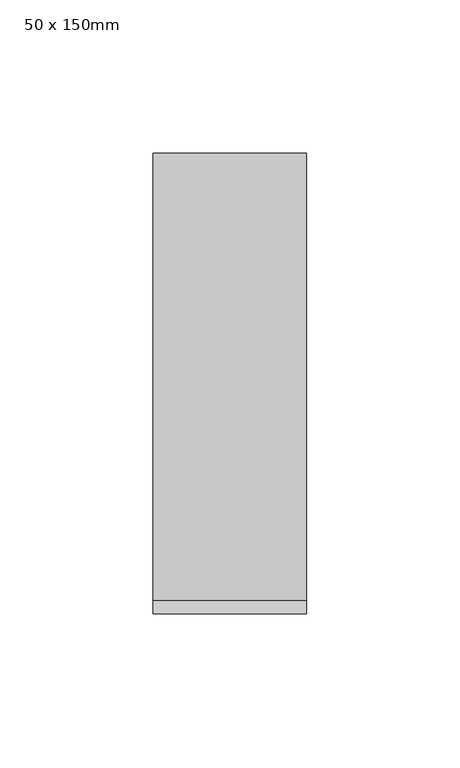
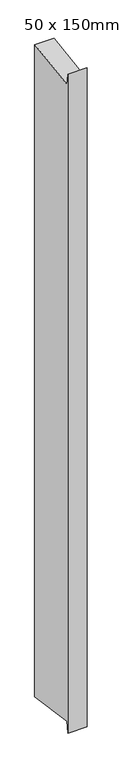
"""IFC4 building model written with IfcOpenShell, lengths in millimetres: member geometry, 矩形竖梃 : 50 x 150mm."""

from ifc_helpers import new_model, si_unit, frame, origin, place, context, project, spatial, polyline, outline, extrude, source, transform, mapped, element, save


def member_50_x_150mm_4a28a883(model_context):
    return source(origin(), model_context, "Body", "SweptSolid", [
        extrude(outline(polyline([(-75.0, 19.6109918), (-70.6553215, -10.4658363), (75.0, 10.5744657), (75.0, -1790.5744657), (-70.6553215, -1769.5341637), (-75.0, -1799.6109918), (-75.0, 19.6109918)])), frame((-50.0, 0.0, 0.0), z_axis=(1.0, 0.0, 0.0), x_axis=(0.0, 1.0, 0.0)), (0.0, 0.0, 1.0), 50.0),
    ])


if __name__ == "__main__":
    model = new_model("IFC4")
    model_context = context("Model", 3, world=origin())
    ifc_project = project(units=[si_unit("LENGTHUNIT", "METRE", prefix="MILLI")], contexts=[model_context])
    site = spatial("IfcSite", under=ifc_project)
    building = spatial("IfcBuilding", under=site)
    placement = place(None, origin())
    member_50_x_150mm_shape = member_50_x_150mm_4a28a883(model_context)
    element("IfcMember", 1, ObjectType="矩形竖梃 : 50 x 150mm", at=placement, inside=building, context=model_context, shape_type="MappedRepresentation", body=[
        mapped(member_50_x_150mm_shape, transform((0.0, 0.0, 0.0), x_axis=(1.0, 0.0, 0.0), y_axis=(0.0, 1.0, 0.0), z_axis=(0.0, 0.0, 1.0))),
    ])
    save(model, "model.ifc")
